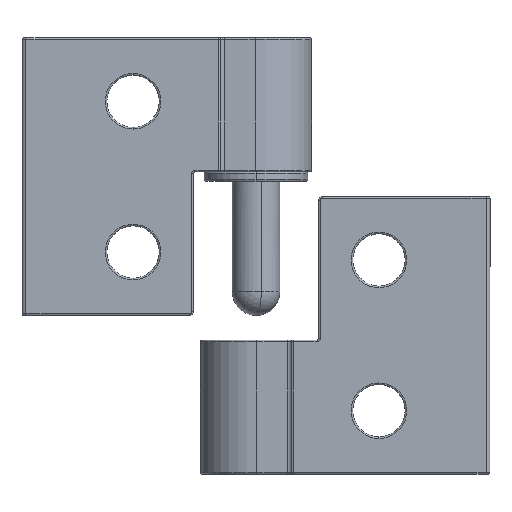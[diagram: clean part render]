
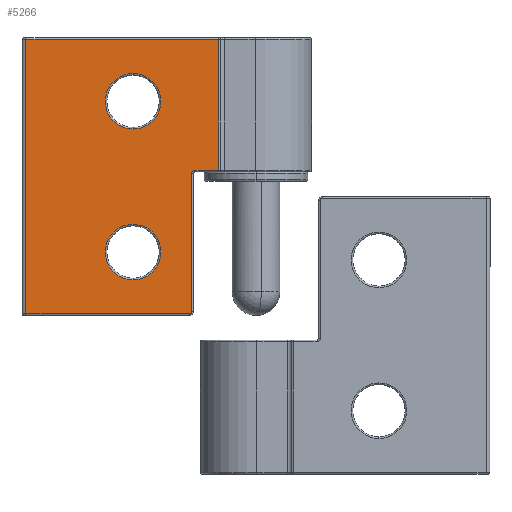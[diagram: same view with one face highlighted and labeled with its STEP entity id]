
A CAD part, front view. The second image highlights one B-rep face of the part: STEP entity #5266.
In plain terms, the highlighted planar face has unit normal (0, -1, 0).
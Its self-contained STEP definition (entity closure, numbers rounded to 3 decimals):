
#123 = AXIS2_PLACEMENT_3D ( 'NONE', #7646, #331, #1459 ) ;
#161 = DIRECTION ( 'NONE',  ( -1., 0., 0. ) ) ;
#173 = ORIENTED_EDGE ( 'NONE', *, *, #6113, .T. ) ;
#331 = DIRECTION ( 'NONE',  ( 0., 1., 0. ) ) ;
#513 = ORIENTED_EDGE ( 'NONE', *, *, #10764, .T. ) ;
#529 = CARTESIAN_POINT ( 'NONE',  ( -15.5, -8.4, -9.5 ) ) ;
#852 = AXIS2_PLACEMENT_3D ( 'NONE', #12660, #5117, #13395 ) ;
#922 = LINE ( 'NONE', #11140, #4005 ) ;
#968 = VERTEX_POINT ( 'NONE', #7642 ) ;
#988 = CARTESIAN_POINT ( 'NONE',  ( -15.5, -8.4, -6. ) ) ;
#1090 = EDGE_LOOP ( 'NONE', ( #513, #11373, #4123, #5440, #12849, #4767, #6093, #9270 ) ) ;
#1212 = PLANE ( 'NONE',  #4343 ) ;
#1288 = CARTESIAN_POINT ( 'NONE',  ( -4.693, -8.4, 17.5 ) ) ;
#1297 = DIRECTION ( 'NONE',  ( 0., 0., 1. ) ) ;
#1459 = DIRECTION ( 'NONE',  ( 0., 0., 1. ) ) ;
#1462 = AXIS2_PLACEMENT_3D ( 'NONE', #10231, #12306, #11184 ) ;
#1493 = DIRECTION ( 'NONE',  ( 0., 1., 0. ) ) ;
#1867 = EDGE_CURVE ( 'NONE', #6374, #8569, #9816, .T. ) ;
#1878 = DIRECTION ( 'NONE',  ( 1., 0., 0. ) ) ;
#2079 = EDGE_LOOP ( 'NONE', ( #173, #12069 ) ) ;
#2141 = DIRECTION ( 'NONE',  ( 0., 0., 1. ) ) ;
#2205 = DIRECTION ( 'NONE',  ( 0., 0., 1. ) ) ;
#2231 = CARTESIAN_POINT ( 'NONE',  ( -29.5, -8.4, 17.5 ) ) ;
#2290 = LINE ( 'NONE', #5924, #12997 ) ;
#2327 = EDGE_CURVE ( 'NONE', #7914, #968, #4428, .T. ) ;
#2528 = DIRECTION ( 'NONE',  ( 0., 0., 1. ) ) ;
#2904 = VERTEX_POINT ( 'NONE', #7943 ) ;
#3183 = CIRCLE ( 'NONE', #13082, 3.5 ) ;
#3202 = ORIENTED_EDGE ( 'NONE', *, *, #2327, .T. ) ;
#3419 = EDGE_CURVE ( 'NONE', #6450, #6374, #12821, .T. ) ;
#3536 = VECTOR ( 'NONE', #161, 1000. ) ;
#4005 = VECTOR ( 'NONE', #11181, 1000. ) ;
#4123 = ORIENTED_EDGE ( 'NONE', *, *, #12172, .T. ) ;
#4217 = CARTESIAN_POINT ( 'NONE',  ( -7.7, -8.4, 0.8 ) ) ;
#4343 = AXIS2_PLACEMENT_3D ( 'NONE', #2231, #6410, #2141 ) ;
#4428 = CIRCLE ( 'NONE', #1462, 3.5 ) ;
#4487 = EDGE_CURVE ( 'NONE', #8569, #12749, #6695, .T. ) ;
#4767 = ORIENTED_EDGE ( 'NONE', *, *, #1867, .T. ) ;
#4808 = AXIS2_PLACEMENT_3D ( 'NONE', #6665, #1493, #2528 ) ;
#5067 = VECTOR ( 'NONE', #1297, 1000. ) ;
#5117 = DIRECTION ( 'NONE',  ( 0., -1., 0. ) ) ;
#5266 = ADVANCED_FACE ( 'NONE', ( #10940, #8325, #10142 ), #1212, .F. ) ;
#5328 = ORIENTED_EDGE ( 'NONE', *, *, #6664, .T. ) ;
#5440 = ORIENTED_EDGE ( 'NONE', *, *, #11303, .F. ) ;
#5779 = CARTESIAN_POINT ( 'NONE',  ( -4.693, -8.4, 0.8 ) ) ;
#5792 = CIRCLE ( 'NONE', #12837, 0.4 ) ;
#5914 = EDGE_LOOP ( 'NONE', ( #3202, #5328 ) ) ;
#5924 = CARTESIAN_POINT ( 'NONE',  ( -29.5, -8.4, 0.8 ) ) ;
#5959 = LINE ( 'NONE', #1288, #12906 ) ;
#6093 = ORIENTED_EDGE ( 'NONE', *, *, #4487, .T. ) ;
#6113 = EDGE_CURVE ( 'NONE', #2904, #8227, #13252, .T. ) ;
#6374 = VERTEX_POINT ( 'NONE', #10202 ) ;
#6410 = DIRECTION ( 'NONE',  ( 0., 1., 0. ) ) ;
#6440 = DIRECTION ( 'NONE',  ( 0., 0., 1. ) ) ;
#6450 = VERTEX_POINT ( 'NONE', #8253 ) ;
#6664 = EDGE_CURVE ( 'NONE', #968, #7914, #3183, .T. ) ;
#6665 = CARTESIAN_POINT ( 'NONE',  ( -15.5, -8.4, 9.5 ) ) ;
#6695 = LINE ( 'NONE', #12597, #5067 ) ;
#6787 = DIRECTION ( 'NONE',  ( 0., 1., 0. ) ) ;
#7478 = CARTESIAN_POINT ( 'NONE',  ( -8.1, -8.4, 0.4 ) ) ;
#7592 = CARTESIAN_POINT ( 'NONE',  ( -8.4, -8.4, -17.3 ) ) ;
#7642 = CARTESIAN_POINT ( 'NONE',  ( -15.5, -8.4, -13. ) ) ;
#7646 = CARTESIAN_POINT ( 'NONE',  ( -15.5, -8.4, 9.5 ) ) ;
#7764 = DIRECTION ( 'NONE',  ( 0., 0., 1. ) ) ;
#7914 = VERTEX_POINT ( 'NONE', #988 ) ;
#7943 = CARTESIAN_POINT ( 'NONE',  ( -15.5, -8.4, 13. ) ) ;
#8227 = VERTEX_POINT ( 'NONE', #9539 ) ;
#8253 = CARTESIAN_POINT ( 'NONE',  ( -29., -8.4, -17.3 ) ) ;
#8325 = FACE_BOUND ( 'NONE', #2079, .T. ) ;
#8432 = DIRECTION ( 'NONE',  ( 0., -1., 0. ) ) ;
#8569 = VERTEX_POINT ( 'NONE', #9179 ) ;
#8764 = VERTEX_POINT ( 'NONE', #13254 ) ;
#8894 = EDGE_CURVE ( 'NONE', #10751, #8764, #5959, .T. ) ;
#9087 = VECTOR ( 'NONE', #10490, 1000. ) ;
#9179 = CARTESIAN_POINT ( 'NONE',  ( -8.1, -8.4, -17. ) ) ;
#9270 = ORIENTED_EDGE ( 'NONE', *, *, #10989, .F. ) ;
#9328 = VERTEX_POINT ( 'NONE', #4217 ) ;
#9539 = CARTESIAN_POINT ( 'NONE',  ( -15.5, -8.4, 6. ) ) ;
#9816 = CIRCLE ( 'NONE', #852, 0.3 ) ;
#10142 = FACE_OUTER_BOUND ( 'NONE', #1090, .T. ) ;
#10202 = CARTESIAN_POINT ( 'NONE',  ( -8.4, -8.4, -17.3 ) ) ;
#10231 = CARTESIAN_POINT ( 'NONE',  ( -15.5, -8.4, -9.5 ) ) ;
#10339 = CIRCLE ( 'NONE', #4808, 3.5 ) ;
#10490 = DIRECTION ( 'NONE',  ( 1., 0., 0. ) ) ;
#10751 = VERTEX_POINT ( 'NONE', #5779 ) ;
#10764 = EDGE_CURVE ( 'NONE', #9328, #10751, #2290, .T. ) ;
#10940 = FACE_BOUND ( 'NONE', #5914, .T. ) ;
#10989 = EDGE_CURVE ( 'NONE', #9328, #12749, #5792, .T. ) ;
#10999 = LINE ( 'NONE', #12476, #3536 ) ;
#11140 = CARTESIAN_POINT ( 'NONE',  ( -29., -8.4, -17.5 ) ) ;
#11181 = DIRECTION ( 'NONE',  ( 0., 0., 1. ) ) ;
#11184 = DIRECTION ( 'NONE',  ( 0., 0., 1. ) ) ;
#11303 = EDGE_CURVE ( 'NONE', #6450, #12692, #922, .T. ) ;
#11373 = ORIENTED_EDGE ( 'NONE', *, *, #8894, .T. ) ;
#11398 = CARTESIAN_POINT ( 'NONE',  ( -7.7, -8.4, 0.4 ) ) ;
#11628 = CARTESIAN_POINT ( 'NONE',  ( -29., -8.4, 17.3 ) ) ;
#12069 = ORIENTED_EDGE ( 'NONE', *, *, #12278, .T. ) ;
#12172 = EDGE_CURVE ( 'NONE', #8764, #12692, #10999, .T. ) ;
#12278 = EDGE_CURVE ( 'NONE', #8227, #2904, #10339, .T. ) ;
#12306 = DIRECTION ( 'NONE',  ( 0., 1., 0. ) ) ;
#12476 = CARTESIAN_POINT ( 'NONE',  ( -29.5, -8.4, 17.3 ) ) ;
#12597 = CARTESIAN_POINT ( 'NONE',  ( -8.1, -8.4, 17.5 ) ) ;
#12660 = CARTESIAN_POINT ( 'NONE',  ( -8.4, -8.4, -17. ) ) ;
#12692 = VERTEX_POINT ( 'NONE', #11628 ) ;
#12749 = VERTEX_POINT ( 'NONE', #7478 ) ;
#12821 = LINE ( 'NONE', #7592, #9087 ) ;
#12837 = AXIS2_PLACEMENT_3D ( 'NONE', #11398, #8432, #2205 ) ;
#12849 = ORIENTED_EDGE ( 'NONE', *, *, #3419, .T. ) ;
#12906 = VECTOR ( 'NONE', #6440, 1000. ) ;
#12997 = VECTOR ( 'NONE', #1878, 1000. ) ;
#13082 = AXIS2_PLACEMENT_3D ( 'NONE', #529, #6787, #7764 ) ;
#13252 = CIRCLE ( 'NONE', #123, 3.5 ) ;
#13254 = CARTESIAN_POINT ( 'NONE',  ( -4.693, -8.4, 17.3 ) ) ;
#13395 = DIRECTION ( 'NONE',  ( 0., 0., 1. ) ) ;
